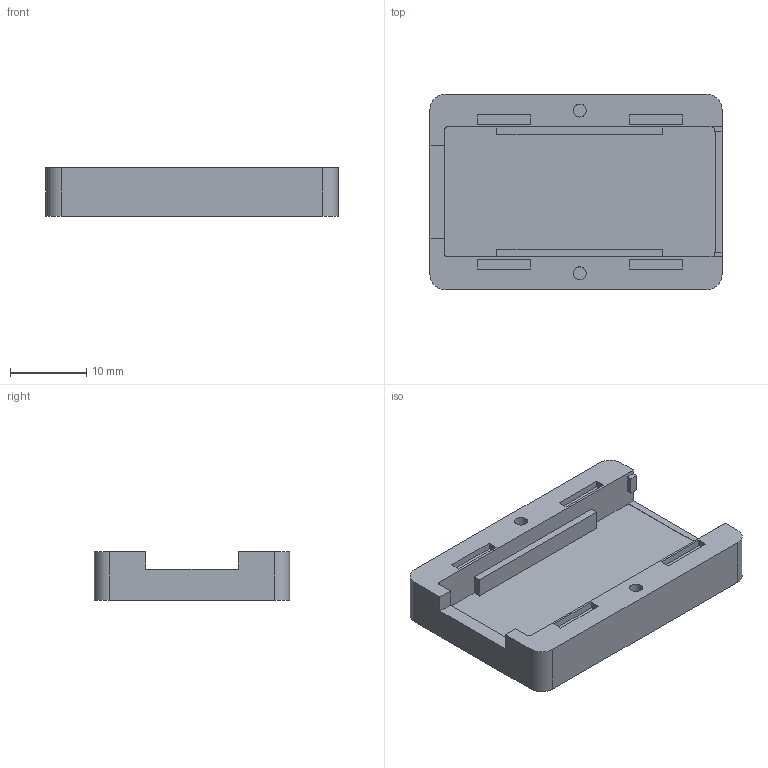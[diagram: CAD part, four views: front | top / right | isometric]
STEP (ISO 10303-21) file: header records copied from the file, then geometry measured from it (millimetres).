
FILE_DESCRIPTION(('Open CASCADE Model'),'2;1');
FILE_NAME('Open CASCADE Shape Model','2026-10-25T05:27:17',('Author'),( 'Open CASCADE'),'Open CASCADE STEP processor 7.8','Open CASCADE 7.8' ,'Unknown');
FILE_SCHEMA(('AUTOMOTIVE_DESIGN { 1 0 10303 214 1 1 1 1 }'));
Length unit declared in the file: millimetre
Products named in the file (1): Open CASCADE STEP translator 7.8 1
Bounding box: 38.4 x 25.7 x 6.4 mm (x, y, z)
Volume: 3186.4 mm3; surface area: 3203.8 mm2
Topology: 1 solids, 1 shells, 64 faces, 168 edges, 112 vertices
Faces by surface type: plane 54, cylinder 10
Full cylindrical faces by diameter (mm): 1.7 x2
Entity records: 4188 total; most frequent: CARTESIAN_POINT 765, DIRECTION 640, LINE 464, VECTOR 464, ORIENTED_EDGE 336, PCURVE 336, DEFINITIONAL_REPRESENTATION 336, EDGE_CURVE 168
